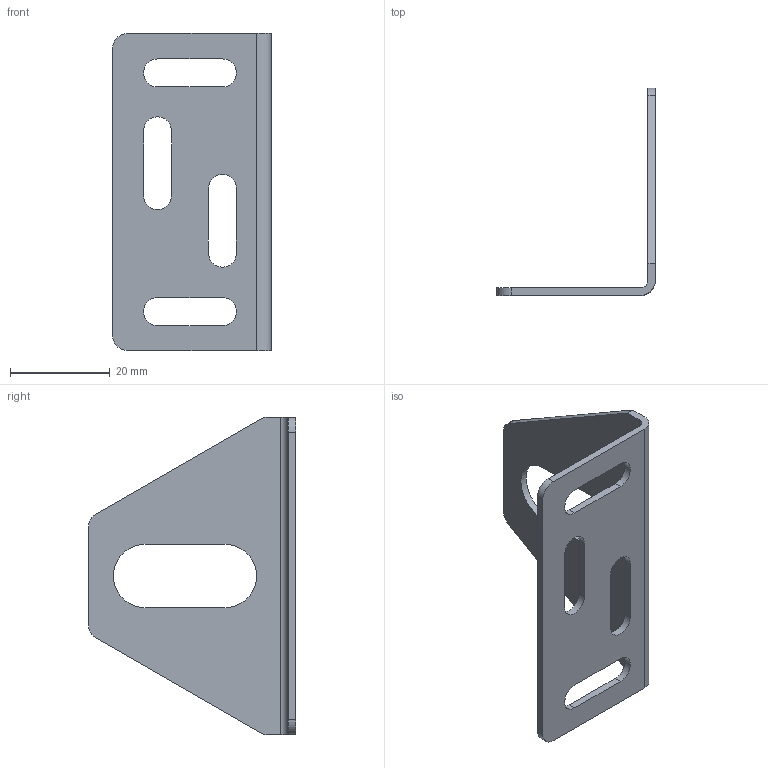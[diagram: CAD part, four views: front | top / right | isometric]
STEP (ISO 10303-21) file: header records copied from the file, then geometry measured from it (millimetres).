
FILE_DESCRIPTION(/* description */ ('PART (MM)'),/* implementation_level */ '2;1');
FILE_NAME(/* name */ 'L:\CAD Inventor\Workspace\Active Components\A3130.stp',/* time_stamp */ '2021-08-17T07:05:33-05:00',/* author */ ('RSwans'),/* organization */ (''),/* preprocessor_version */ 'ST-DEVELOPER v16.5',/* originating_system */ 'Autodesk Inventor 2017',/* authorisation */ '');
FILE_SCHEMA (('AUTOMOTIVE_DESIGN { 1 0 10303 214 3 1 1 }'));
Length unit declared in the file: millimetre
Products named in the file (1): Part2
Bounding box: 31.8 x 41.5 x 63.5 mm (x, y, z)
Volume: 4590.3 mm3; surface area: 6843.5 mm2
Topology: 1 solids, 1 shells, 36 faces, 102 edges, 68 vertices
Faces by surface type: plane 20, cylinder 16
Entity records: 1228 total; most frequent: DIRECTION 208, CARTESIAN_POINT 207, ORIENTED_EDGE 204, EDGE_CURVE 102, LINE 70, VECTOR 70, AXIS2_PLACEMENT_3D 69, VERTEX_POINT 68
